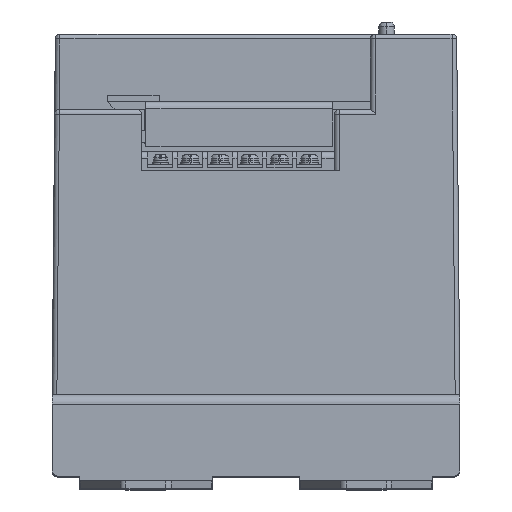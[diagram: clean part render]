
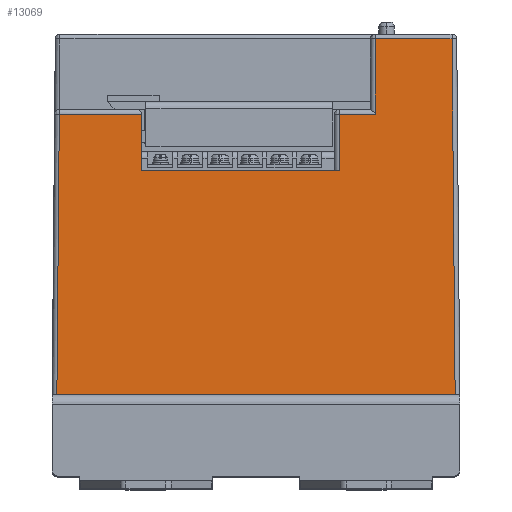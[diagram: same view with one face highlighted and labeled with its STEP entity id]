
A CAD part, top view. The second image highlights one B-rep face of the part: STEP entity #13069.
In plain terms, the highlighted planar face has unit normal (0, 0.009, 1).
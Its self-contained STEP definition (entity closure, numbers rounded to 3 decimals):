
#141 = ORIENTED_EDGE ( 'NONE', *, *, #17939, .F. ) ;
#225 = EDGE_CURVE ( 'NONE', #21776, #10966, #3253, .T. ) ;
#566 = CARTESIAN_POINT ( 'NONE',  ( -36.5, 89.5, 87.219 ) ) ;
#857 = EDGE_CURVE ( 'NONE', #1123, #7224, #11464, .T. ) ;
#1123 = VERTEX_POINT ( 'NONE', #6433 ) ;
#1199 = CARTESIAN_POINT ( 'NONE',  ( 63.5, 0., 88. ) ) ;
#1269 = CARTESIAN_POINT ( 'NONE',  ( -65., 89.513, 87.219 ) ) ;
#1311 = EDGE_CURVE ( 'NONE', #3436, #20158, #6299, .T. ) ;
#1370 = EDGE_CURVE ( 'NONE', #20158, #21776, #12684, .T. ) ;
#1690 = ORIENTED_EDGE ( 'NONE', *, *, #20100, .T. ) ;
#1707 = DIRECTION ( 'NONE',  ( -1., 0., 0. ) ) ;
#1998 = CARTESIAN_POINT ( 'NONE',  ( -36.5, 89.509, 87.219 ) ) ;
#2782 = AXIS2_PLACEMENT_3D ( 'NONE', #16432, #3104, #8205 ) ;
#3087 = VECTOR ( 'NONE', #1707, 1000. ) ;
#3104 = DIRECTION ( 'NONE',  ( 0., 0.009, 1. ) ) ;
#3208 = EDGE_CURVE ( 'NONE', #20068, #12066, #16847, .T. ) ;
#3253 = LINE ( 'NONE', #1269, #3087 ) ;
#3338 = ORIENTED_EDGE ( 'NONE', *, *, #3208, .T. ) ;
#3436 = VERTEX_POINT ( 'NONE', #3749 ) ;
#3749 = CARTESIAN_POINT ( 'NONE',  ( 62.509, 113.513, 87.009 ) ) ;
#3857 = CARTESIAN_POINT ( 'NONE',  ( 26.5, 89.513, 87.219 ) ) ;
#4027 = DIRECTION ( 'NONE',  ( 0., -1., 0.009 ) ) ;
#5133 = VECTOR ( 'NONE', #10658, 1000. ) ;
#5346 = DIRECTION ( 'NONE',  ( 0., 1., -0.009 ) ) ;
#5362 = CARTESIAN_POINT ( 'NONE',  ( -36.5, 71.5, 87.376 ) ) ;
#5371 = ORIENTED_EDGE ( 'NONE', *, *, #225, .T. ) ;
#5442 = CARTESIAN_POINT ( 'NONE',  ( -36.5, 89.513, 87.219 ) ) ;
#5745 = VERTEX_POINT ( 'NONE', #5362 ) ;
#5841 = VECTOR ( 'NONE', #6256, 1000. ) ;
#6088 = CARTESIAN_POINT ( 'NONE',  ( 38., 89.513, 87.219 ) ) ;
#6256 = DIRECTION ( 'NONE',  ( -1., 0., 0. ) ) ;
#6299 = LINE ( 'NONE', #16496, #20428 ) ;
#6344 = FACE_OUTER_BOUND ( 'NONE', #16239, .T. ) ;
#6433 = CARTESIAN_POINT ( 'NONE',  ( -36.5, 89.513, 87.219 ) ) ;
#6785 = CARTESIAN_POINT ( 'NONE',  ( -36.5, 89.5, 87.219 ) ) ;
#6998 = CARTESIAN_POINT ( 'NONE',  ( -62.719, 89.513, 87.219 ) ) ;
#7159 = EDGE_CURVE ( 'NONE', #10966, #18555, #11340, .T. ) ;
#7224 = VERTEX_POINT ( 'NONE', #6785 ) ;
#7263 = ORIENTED_EDGE ( 'NONE', *, *, #857, .F. ) ;
#7798 = CARTESIAN_POINT ( 'NONE',  ( 26.5, 0., 88. ) ) ;
#8125 = CARTESIAN_POINT ( 'NONE',  ( -65., 71.5, 87.376 ) ) ;
#8205 = DIRECTION ( 'NONE',  ( 0., -1., 0.009 ) ) ;
#8303 = DIRECTION ( 'NONE',  ( -0.009, -1., 0.009 ) ) ;
#8335 = CARTESIAN_POINT ( 'NONE',  ( -36.5, 0., 88. ) ) ;
#8607 = CARTESIAN_POINT ( 'NONE',  ( 63.487, 1.523, 87.987 ) ) ;
#8736 = ORIENTED_EDGE ( 'NONE', *, *, #1370, .T. ) ;
#8755 = ORIENTED_EDGE ( 'NONE', *, *, #1311, .T. ) ;
#9210 = VERTEX_POINT ( 'NONE', #1199 ) ;
#9361 = CARTESIAN_POINT ( 'NONE',  ( 38., 0., 88. ) ) ;
#9747 = VECTOR ( 'NONE', #16821, 1000. ) ;
#10551 = ORIENTED_EDGE ( 'NONE', *, *, #20249, .T. ) ;
#10576 = CARTESIAN_POINT ( 'NONE',  ( 26.5, 71.5, 87.376 ) ) ;
#10658 = DIRECTION ( 'NONE',  ( 1., 0., 0. ) ) ;
#10966 = VERTEX_POINT ( 'NONE', #3857 ) ;
#11123 = CARTESIAN_POINT ( 'NONE',  ( -65., 89.513, 87.219 ) ) ;
#11241 = VECTOR ( 'NONE', #4027, 1000. ) ;
#11326 = PLANE ( 'NONE',  #2782 ) ;
#11340 = LINE ( 'NONE', #7798, #13215 ) ;
#11464 = B_SPLINE_CURVE_WITH_KNOTS ( 'NONE', 3,
 ( #5442, #1998, #15782, #566 ),
 .UNSPECIFIED., .F., .F.,
 ( 4, 4 ),
 ( 0., 1. ),
 .UNSPECIFIED. ) ;
#11698 = ORIENTED_EDGE ( 'NONE', *, *, #19971, .T. ) ;
#11744 = CARTESIAN_POINT ( 'NONE',  ( -63.5, 0., 88. ) ) ;
#12066 = VERTEX_POINT ( 'NONE', #11744 ) ;
#12216 = CARTESIAN_POINT ( 'NONE',  ( 0., 0., 88. ) ) ;
#12684 = LINE ( 'NONE', #9361, #11241 ) ;
#13056 = DIRECTION ( 'NONE',  ( -1., 0., 0. ) ) ;
#13069 = ADVANCED_FACE ( 'NONE', ( #6344 ), #11326, .T. ) ;
#13073 = VECTOR ( 'NONE', #8303, 1000. ) ;
#13215 = VECTOR ( 'NONE', #16661, 1000. ) ;
#13275 = VECTOR ( 'NONE', #5346, 1000. ) ;
#14221 = LINE ( 'NONE', #12216, #5133 ) ;
#14970 = CARTESIAN_POINT ( 'NONE',  ( -62.719, 89.513, 87.219 ) ) ;
#15118 = LINE ( 'NONE', #8335, #13275 ) ;
#15782 = CARTESIAN_POINT ( 'NONE',  ( -36.5, 89.504, 87.219 ) ) ;
#16110 = VECTOR ( 'NONE', #18001, 1000. ) ;
#16239 = EDGE_LOOP ( 'NONE', ( #17470, #11698, #1690, #7263, #21623, #3338, #10551, #141, #8755, #8736, #5371 ) ) ;
#16432 = CARTESIAN_POINT ( 'NONE',  ( -65., 0., 88. ) ) ;
#16496 = CARTESIAN_POINT ( 'NONE',  ( -65., 113.513, 87.009 ) ) ;
#16661 = DIRECTION ( 'NONE',  ( 0., -1., 0.009 ) ) ;
#16821 = DIRECTION ( 'NONE',  ( 0.009, -1., 0.009 ) ) ;
#16847 = LINE ( 'NONE', #14970, #13073 ) ;
#17470 = ORIENTED_EDGE ( 'NONE', *, *, #7159, .T. ) ;
#17939 = EDGE_CURVE ( 'NONE', #3436, #9210, #18594, .T. ) ;
#18001 = DIRECTION ( 'NONE',  ( -1., 0., 0. ) ) ;
#18555 = VERTEX_POINT ( 'NONE', #10576 ) ;
#18594 = LINE ( 'NONE', #8607, #9747 ) ;
#19666 = LINE ( 'NONE', #11123, #16110 ) ;
#19910 = EDGE_CURVE ( 'NONE', #1123, #20068, #19666, .T. ) ;
#19971 = EDGE_CURVE ( 'NONE', #18555, #5745, #21427, .T. ) ;
#20068 = VERTEX_POINT ( 'NONE', #6998 ) ;
#20100 = EDGE_CURVE ( 'NONE', #5745, #7224, #15118, .T. ) ;
#20158 = VERTEX_POINT ( 'NONE', #20297 ) ;
#20249 = EDGE_CURVE ( 'NONE', #12066, #9210, #14221, .T. ) ;
#20297 = CARTESIAN_POINT ( 'NONE',  ( 38., 113.513, 87.009 ) ) ;
#20428 = VECTOR ( 'NONE', #13056, 1000. ) ;
#21427 = LINE ( 'NONE', #8125, #5841 ) ;
#21623 = ORIENTED_EDGE ( 'NONE', *, *, #19910, .T. ) ;
#21776 = VERTEX_POINT ( 'NONE', #6088 ) ;
